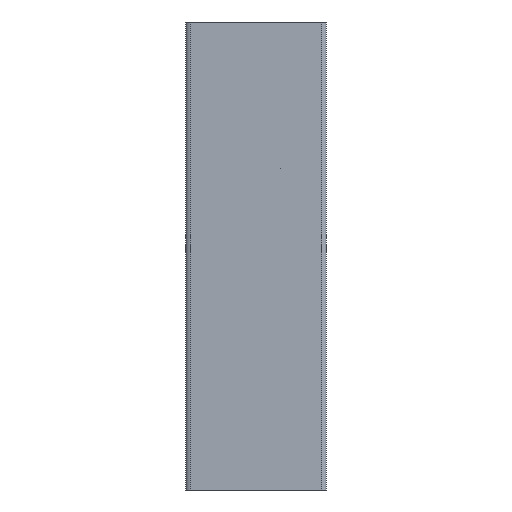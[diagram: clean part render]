
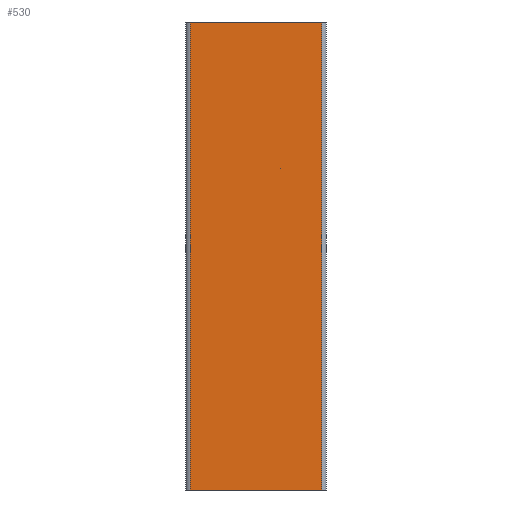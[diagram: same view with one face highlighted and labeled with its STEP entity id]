
A CAD part, left-side view. The second image highlights one B-rep face of the part: STEP entity #530.
In plain terms, the highlighted planar face has unit normal (-1, 0, 0).
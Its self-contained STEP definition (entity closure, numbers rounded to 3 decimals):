
#68=LINE('',#856,#128);
#69=LINE('',#859,#129);
#70=LINE('',#861,#130);
#71=LINE('',#862,#131);
#128=VECTOR('',#701,100.);
#129=VECTOR('',#704,28.);
#130=VECTOR('',#705,28.);
#131=VECTOR('',#706,100.);
#151=PLANE('',#571);
#180=FACE_OUTER_BOUND('',#208,.T.);
#208=EDGE_LOOP('',(#439,#440,#441,#442));
#273=VERTEX_POINT('',#852);
#274=VERTEX_POINT('',#854);
#275=VERTEX_POINT('',#858);
#276=VERTEX_POINT('',#860);
#344=EDGE_CURVE('',#273,#274,#68,.T.);
#345=EDGE_CURVE('',#273,#275,#69,.T.);
#346=EDGE_CURVE('',#276,#274,#70,.T.);
#347=EDGE_CURVE('',#275,#276,#71,.T.);
#439=ORIENTED_EDGE('',*,*,#345,.F.);
#440=ORIENTED_EDGE('',*,*,#344,.T.);
#441=ORIENTED_EDGE('',*,*,#346,.F.);
#442=ORIENTED_EDGE('',*,*,#347,.F.);
#530=ADVANCED_FACE('',(#180),#151,.T.);
#571=AXIS2_PLACEMENT_3D('',#857,#702,#703);
#701=DIRECTION('',(0.,0.,1.));
#702=DIRECTION('center_axis',(-1.,0.,0.));
#703=DIRECTION('ref_axis',(0.,-1.,0.));
#704=DIRECTION('',(0.,1.,0.));
#705=DIRECTION('',(0.,-1.,0.));
#706=DIRECTION('',(0.,0.,1.));
#852=CARTESIAN_POINT('',(-7.607,-13.691,0.));
#854=CARTESIAN_POINT('',(-7.607,-13.691,100.));
#856=CARTESIAN_POINT('',(-7.607,-13.691,0.));
#857=CARTESIAN_POINT('Origin',(-7.607,14.309,0.));
#858=CARTESIAN_POINT('',(-7.607,14.309,0.));
#859=CARTESIAN_POINT('',(-7.607,-13.691,0.));
#860=CARTESIAN_POINT('',(-7.607,14.309,100.));
#861=CARTESIAN_POINT('',(-7.607,-13.691,100.));
#862=CARTESIAN_POINT('',(-7.607,14.309,0.));
